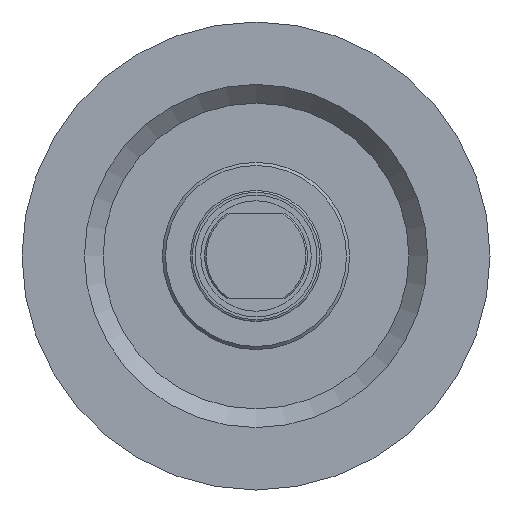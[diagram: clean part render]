
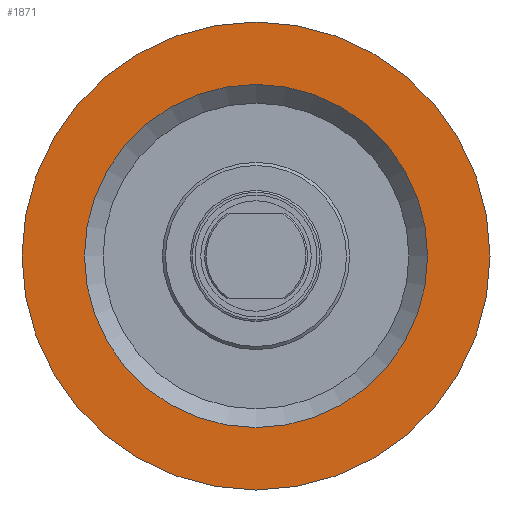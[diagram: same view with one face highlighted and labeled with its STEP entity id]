
A CAD part, left-side view. The second image highlights one B-rep face of the part: STEP entity #1871.
In plain terms, the highlighted planar face has unit normal (-1, 0, 0).
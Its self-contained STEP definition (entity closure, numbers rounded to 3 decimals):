
#342=FACE_BOUND('',#514,.T.);
#399=FACE_OUTER_BOUND('',#513,.T.);
#513=EDGE_LOOP('',(#1387,#1388));
#514=EDGE_LOOP('',(#1389,#1390));
#670=CIRCLE('',#2264,75.);
#671=CIRCLE('',#2265,75.);
#689=CIRCLE('',#2293,55.);
#690=CIRCLE('',#2294,55.);
#830=VERTEX_POINT('',#3241);
#831=VERTEX_POINT('',#3243);
#849=VERTEX_POINT('',#3296);
#850=VERTEX_POINT('',#3298);
#1042=EDGE_CURVE('',#830,#831,#670,.T.);
#1043=EDGE_CURVE('',#831,#830,#671,.T.);
#1068=EDGE_CURVE('',#850,#849,#689,.T.);
#1069=EDGE_CURVE('',#849,#850,#690,.T.);
#1387=ORIENTED_EDGE('',*,*,#1043,.F.);
#1388=ORIENTED_EDGE('',*,*,#1042,.F.);
#1389=ORIENTED_EDGE('',*,*,#1068,.T.);
#1390=ORIENTED_EDGE('',*,*,#1069,.T.);
#1820=PLANE('',#2295);
#1871=ADVANCED_FACE('',(#399,#342),#1820,.T.);
#2264=AXIS2_PLACEMENT_3D('',#3244,#2607,#2608);
#2265=AXIS2_PLACEMENT_3D('',#3245,#2609,#2610);
#2293=AXIS2_PLACEMENT_3D('',#3299,#2672,#2673);
#2294=AXIS2_PLACEMENT_3D('',#3300,#2674,#2675);
#2295=AXIS2_PLACEMENT_3D('',#3301,#2676,#2677);
#2607=DIRECTION('center_axis',(1.,0.,0.));
#2608=DIRECTION('ref_axis',(0.,0.,-1.));
#2609=DIRECTION('center_axis',(1.,0.,0.));
#2610=DIRECTION('ref_axis',(0.,0.,-1.));
#2672=DIRECTION('center_axis',(1.,0.,0.));
#2673=DIRECTION('ref_axis',(0.,0.,-1.));
#2674=DIRECTION('center_axis',(1.,0.,0.));
#2675=DIRECTION('ref_axis',(0.,0.,-1.));
#2676=DIRECTION('center_axis',(-1.,0.,0.));
#2677=DIRECTION('ref_axis',(0.,0.,1.));
#3241=CARTESIAN_POINT('',(-11.,-75.,0.));
#3243=CARTESIAN_POINT('',(-11.,75.,0.));
#3244=CARTESIAN_POINT('Origin',(-11.,0.,0.));
#3245=CARTESIAN_POINT('Origin',(-11.,0.,0.));
#3296=CARTESIAN_POINT('',(-11.,-55.,0.));
#3298=CARTESIAN_POINT('',(-11.,55.,0.));
#3299=CARTESIAN_POINT('Origin',(-11.,0.,0.));
#3300=CARTESIAN_POINT('Origin',(-11.,0.,0.));
#3301=CARTESIAN_POINT('Origin',(-11.,75.,0.));
